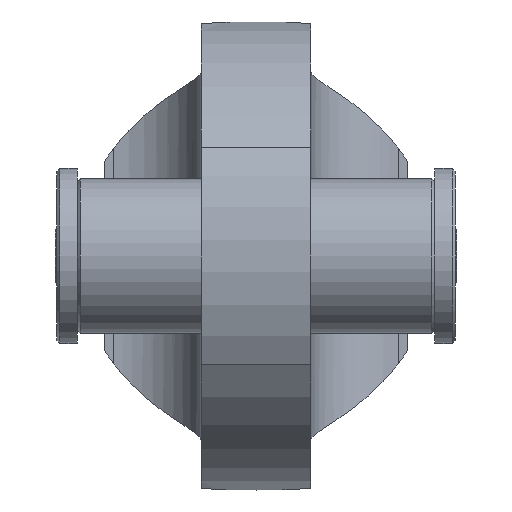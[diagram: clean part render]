
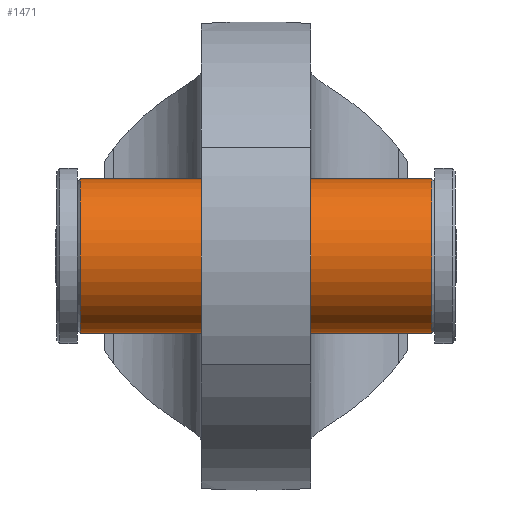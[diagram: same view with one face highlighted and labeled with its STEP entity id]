
A CAD part, left-side view. The second image highlights one B-rep face of the part: STEP entity #1471.
In plain terms, the highlighted cylindrical face has radius 53 mm (diameter 106 mm), a full revolution.
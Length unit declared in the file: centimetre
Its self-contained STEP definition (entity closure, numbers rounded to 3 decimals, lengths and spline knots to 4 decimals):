
#191=CYLINDRICAL_SURFACE('',#1639,5.3);
#291=FACE_BOUND('',#524,.T.);
#377=FACE_OUTER_BOUND('',#523,.T.);
#523=EDGE_LOOP('',(#1159));
#524=EDGE_LOOP('',(#1160));
#629=CIRCLE('',#1638,5.3);
#630=CIRCLE('',#1640,5.3);
#735=VERTEX_POINT('',#2521);
#736=VERTEX_POINT('',#2524);
#887=EDGE_CURVE('',#735,#735,#629,.T.);
#888=EDGE_CURVE('',#736,#736,#630,.T.);
#1159=ORIENTED_EDGE('',*,*,#888,.F.);
#1160=ORIENTED_EDGE('',*,*,#887,.F.);
#1471=ADVANCED_FACE('',(#377,#291),#191,.T.);
#1638=AXIS2_PLACEMENT_3D('',#2522,#1966,#1967);
#1639=AXIS2_PLACEMENT_3D('',#2523,#1968,#1969);
#1640=AXIS2_PLACEMENT_3D('',#2525,#1970,#1971);
#1966=DIRECTION('center_axis',(0.,1.,0.));
#1967=DIRECTION('ref_axis',(-1.,0.,0.));
#1968=DIRECTION('center_axis',(0.,-1.,0.));
#1969=DIRECTION('ref_axis',(-1.,0.,0.));
#1970=DIRECTION('center_axis',(0.,-1.,0.));
#1971=DIRECTION('ref_axis',(-1.,0.,0.));
#2521=CARTESIAN_POINT('',(5.3,12.05,0.));
#2522=CARTESIAN_POINT('Origin',(0.,12.05,0.));
#2523=CARTESIAN_POINT('Origin',(0.,0.,
0.));
#2524=CARTESIAN_POINT('',(5.3,-12.05,0.));
#2525=CARTESIAN_POINT('Origin',(0.,-12.05,0.));
